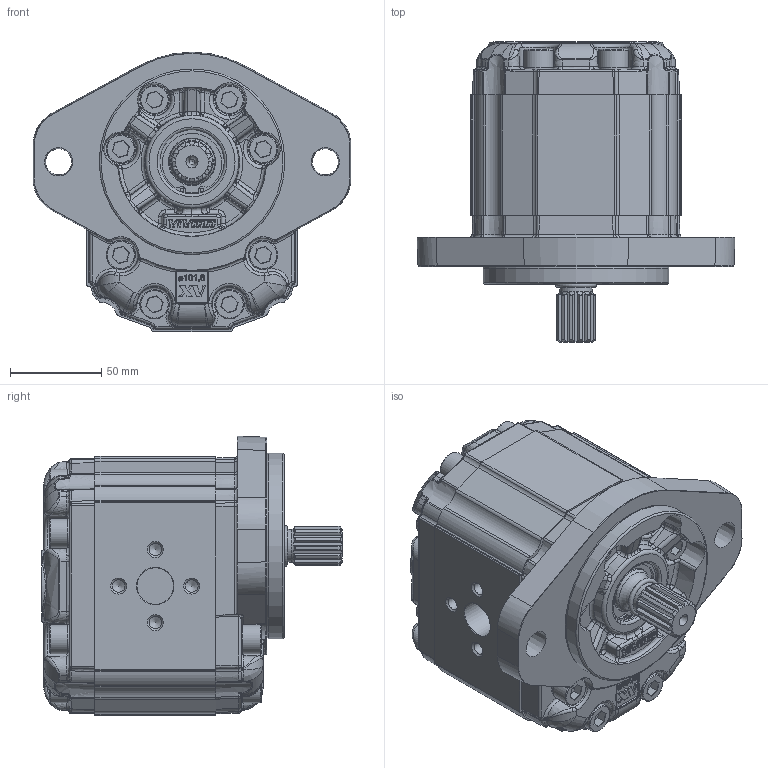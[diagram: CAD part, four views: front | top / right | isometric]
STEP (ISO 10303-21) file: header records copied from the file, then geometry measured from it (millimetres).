
FILE_DESCRIPTION(/* description */ ('Unknown'),/* implementation_level */ '2;1');
FILE_NAME(/* name */ 'X3M6631IAAE',/* time_stamp */ '2021-04-14T19:37:37+02:00',/* author */ ('Unknown'),/* organization */ ('Unknown'),/* preprocessor_version */ 'ST-DEVELOPER v16.7',/* originating_system */ 'Solid Edge',/* authorisation */ 'Unknown');
FILE_SCHEMA (('AUTOMOTIVE_DESIGN {1 0 10303 214 3 1 1}'));
Products named in the file (5): X3M6631IAAE; X3M31; 3I; X3AAH66; XM331-E
Assembly tree (4 placements, depth 2):
  X3M6631IAAE
    X3M31
    3I
    X3AAH66
    XM331-E
Bounding box: 174 x 164.2 x 153 mm (x, y, z)
Volume: 1781681.8 mm3; surface area: 196055.5 mm2
Topology: 4 solids, 21 shells, 2464 faces, 6311 edges, 3984 vertices
Faces by surface type: bspline 1018, plane 715, cylinder 509, cone 107, torus 99, sphere 16
Full cylindrical faces by diameter (mm): 2 x2, 6.8 x8, 10 x16, 15.25 x1, 15.8 x16, 16 x16, 18 x2, 20 x2, 24.98 x1, 25.5 x1, 26.8 x1, 29.425 x1, 31.42 x1, 33.304 x1, 34.7 x1, 35 x2, 35.2 x1, 37 x1, 101.6 x1
Entity records: 136300 total; most frequent: CARTESIAN_POINT 71470, ORIENTED_EDGE 12146, EDGE_CURVE 6073, DIRECTION 5742, VERTEX_POINT 3917, B_SPLINE_CURVE_WITH_KNOTS 3782, FACE_BOUND 2742, EDGE_LOOP 2732
